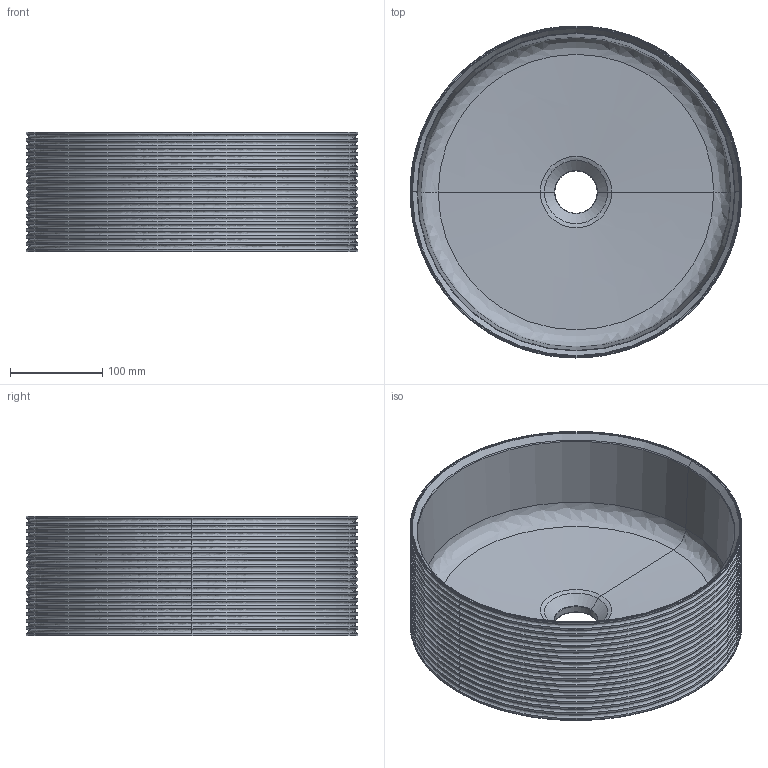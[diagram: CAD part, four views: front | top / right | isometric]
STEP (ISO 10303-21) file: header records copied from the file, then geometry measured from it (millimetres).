
FILE_DESCRIPTION(/* description */ (''),/* implementation_level */ '2;1');
FILE_NAME(/* name */ '00632_00633_Papúa C',/* time_stamp */ '2024-10-17T14:34:40+02:00',/* author */ (''),/* organization */ (''),/* preprocessor_version */ 'ST-DEVELOPER v19.2',/* originating_system */ 'Rhino 8.12',/* authorisation */ '');
FILE_SCHEMA (('CONFIG_CONTROL_DESIGN'));
Length unit declared in the file: millimetre
Products named in the file (1): Document
Bounding box: 360 x 360 x 130 mm (x, y, z)
Volume: 2041810.1 mm3; surface area: 512139.2 mm2
Topology: 1 solids, 1 shells, 120 faces, 240 edges, 120 vertices
Faces by surface type: bspline 76, cylinder 38, plane 6
Entity records: 4600 total; most frequent: CARTESIAN_POINT 2226, ORIENTED_EDGE 480, DIRECTION 404, EDGE_CURVE 240, AXIS2_PLACEMENT_3D 224, TRIMMED_CURVE 178, CIRCLE 178, ADVANCED_FACE 120
